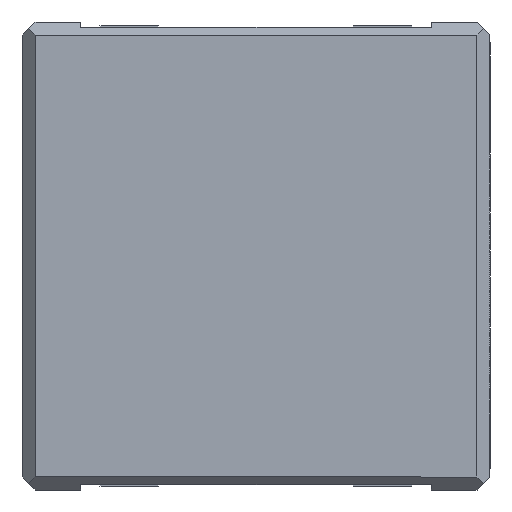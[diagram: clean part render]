
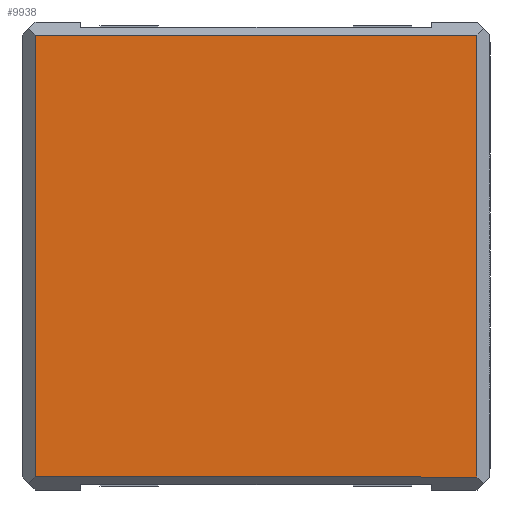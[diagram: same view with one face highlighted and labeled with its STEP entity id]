
A CAD part, front view. The second image highlights one B-rep face of the part: STEP entity #9938.
In plain terms, the highlighted planar face has unit normal (0, -1, 0).
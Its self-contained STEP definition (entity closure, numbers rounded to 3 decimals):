
#9899=CARTESIAN_POINT('',(-18.,0.0,18.));
#9900=DIRECTION('',(0.0,1.0,0.0));
#9901=DIRECTION('',(0.0,0.0,1.0));
#9902=AXIS2_PLACEMENT_3D('',#9899,#9900,#9901);
#9903=PLANE('',#9902);
#9904=CARTESIAN_POINT('',(-17.0,0.0,-17.));
#9905=VERTEX_POINT('',#9904);
#9906=CARTESIAN_POINT('',(17.,0.0,-17.));
#9907=VERTEX_POINT('',#9906);
#9908=CARTESIAN_POINT('',(-17.0,0.0,-17.));
#9909=DIRECTION('',(1.0,0.0,0.0));
#9910=VECTOR('',#9909,34.);
#9911=LINE('',#9908,#9910);
#9912=EDGE_CURVE('',#9905,#9907,#9911,.T.);
#9913=ORIENTED_EDGE('',*,*,#9912,.T.);
#9914=CARTESIAN_POINT('',(17.,0.0,17.));
#9915=VERTEX_POINT('',#9914);
#9916=CARTESIAN_POINT('',(17.,0.0,-17.));
#9917=DIRECTION('',(0.0,0.0,1.0));
#9918=VECTOR('',#9917,34.0);
#9919=LINE('',#9916,#9918);
#9920=EDGE_CURVE('',#9907,#9915,#9919,.T.);
#9921=ORIENTED_EDGE('',*,*,#9920,.T.);
#9922=CARTESIAN_POINT('',(-17.,0.0,17.));
#9923=VERTEX_POINT('',#9922);
#9924=CARTESIAN_POINT('',(17.,0.0,17.));
#9925=DIRECTION('',(-1.0,0.0,0.0));
#9926=VECTOR('',#9925,34.);
#9927=LINE('',#9924,#9926);
#9928=EDGE_CURVE('',#9915,#9923,#9927,.T.);
#9929=ORIENTED_EDGE('',*,*,#9928,.T.);
#9930=CARTESIAN_POINT('',(-17.,0.0,17.));
#9931=DIRECTION('',(0.0,0.0,-1.0));
#9932=VECTOR('',#9931,34.);
#9933=LINE('',#9930,#9932);
#9934=EDGE_CURVE('',#9923,#9905,#9933,.T.);
#9935=ORIENTED_EDGE('',*,*,#9934,.T.);
#9936=EDGE_LOOP('',(#9913,#9921,#9929,#9935));
#9937=FACE_OUTER_BOUND('',#9936,.T.);
#9938=ADVANCED_FACE('',(#9937),#9903,.F.);
